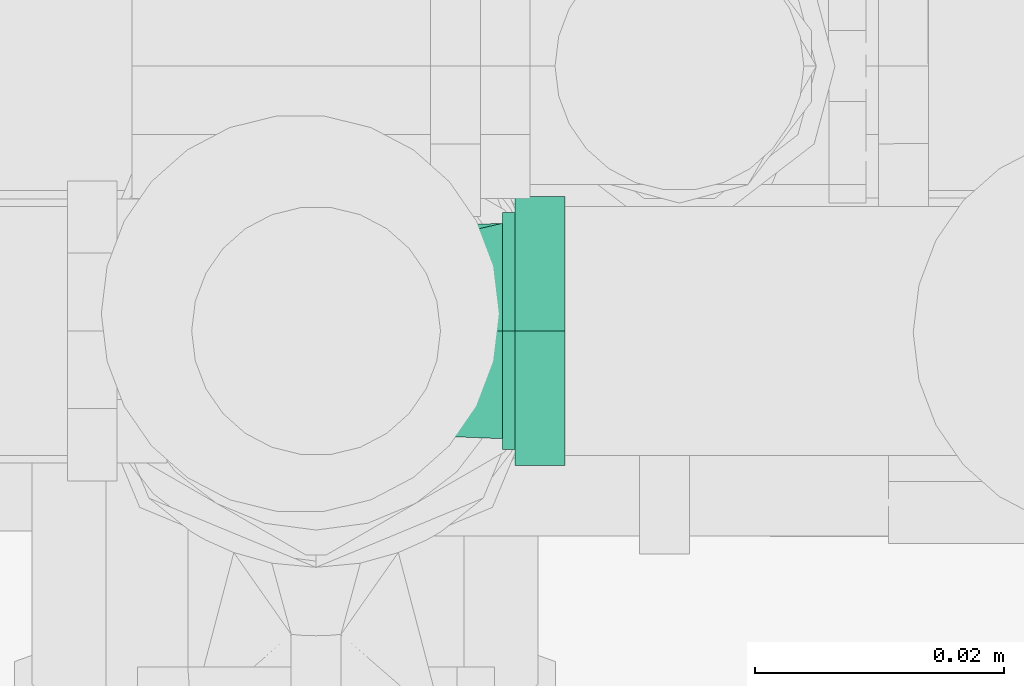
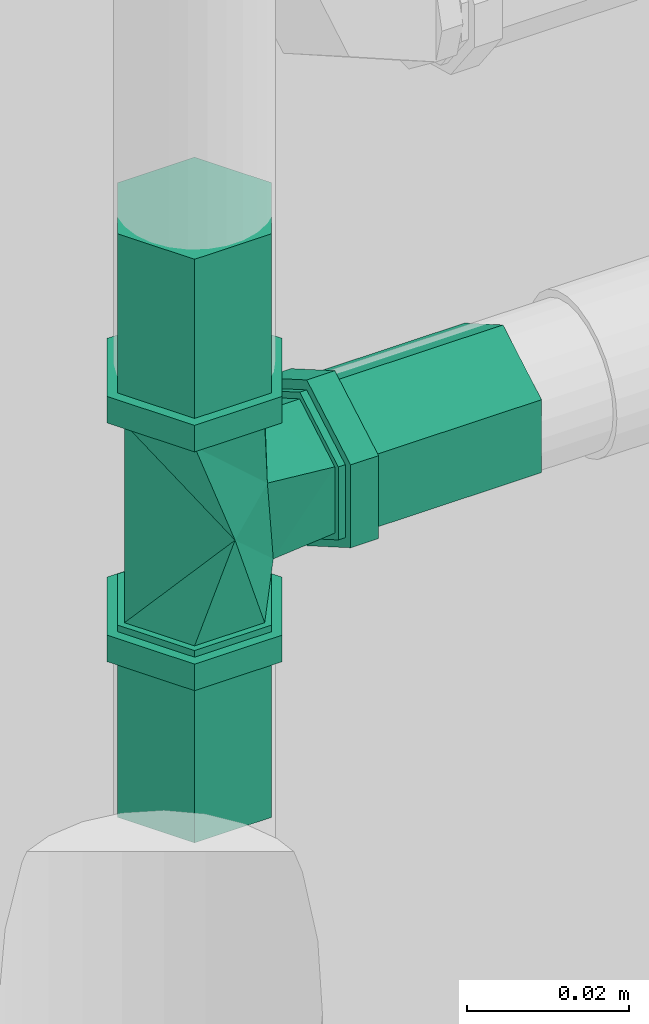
# One storey, part 28 of 32: 1 flow fitting.
"""IFC2X3 building model written with IfcOpenShell, lengths in metres."""

from ifc_helpers import new_model, entity, si_unit, converted_unit, derived_unit, direction, frame, origin, place, context, subcontext, project, spatial, faceted_brep, source, transform, mapped, material, material_list, type_object, type_shapes, element, save


model = new_model("IFC2X3")

# Units and contexts
model_context = context("Model", 3, precision=1e-05, world=origin(), true_north=direction((6.123031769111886e-17, 1.0)))
body_context = subcontext(model_context, "Body", "Model", "MODEL_VIEW")
ifc_project = project(units=[si_unit("LENGTHUNIT", "METRE"), si_unit("AREAUNIT", "SQUARE_METRE"), si_unit("VOLUMEUNIT", "CUBIC_METRE"), converted_unit("PLANEANGLEUNIT", "DEGREE", entity("IfcPlaneAngleMeasure", 0.017453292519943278), si_unit("PLANEANGLEUNIT", "RADIAN"), dimensions=[0, 0, 0, 0, 0, 0, 0]), si_unit("MASSUNIT", "GRAM", prefix="KILO"), derived_unit("MASSDENSITYUNIT", [(si_unit("MASSUNIT", "GRAM", prefix="KILO"), 1), (si_unit("LENGTHUNIT", "METRE"), -3)]), derived_unit("IONCONCENTRATIONUNIT", [(si_unit("MASSUNIT", "GRAM", prefix="KILO"), 1), (si_unit("LENGTHUNIT", "METRE"), -3)]), derived_unit("MOMENTOFINERTIAUNIT", [(si_unit("LENGTHUNIT", "METRE"), 4)]), si_unit("TIMEUNIT", "SECOND"), si_unit("FREQUENCYUNIT", "HERTZ"), si_unit("THERMODYNAMICTEMPERATUREUNIT", "DEGREE_CELSIUS"), derived_unit("THERMALTRANSMITTANCEUNIT", [(si_unit("MASSUNIT", "GRAM", prefix="KILO"), 1), (si_unit("THERMODYNAMICTEMPERATUREUNIT", "KELVIN"), -1), (si_unit("TIMEUNIT", "SECOND"), -3)]), derived_unit("THERMALCONDUCTANCEUNIT", [(si_unit("MASSUNIT", "GRAM", prefix="KILO"), 1), (si_unit("THERMODYNAMICTEMPERATUREUNIT", "KELVIN"), -1), (si_unit("TIMEUNIT", "SECOND"), -3), (si_unit("LENGTHUNIT", "METRE"), 1)]), derived_unit("VOLUMETRICFLOWRATEUNIT", [(si_unit("LENGTHUNIT", "METRE", prefix="DECI"), 3), (si_unit("TIMEUNIT", "SECOND"), -1)]), derived_unit("MASSFLOWRATEUNIT", [(si_unit("MASSUNIT", "GRAM", prefix="KILO"), 1), (si_unit("TIMEUNIT", "SECOND"), -1)]), derived_unit("ROTATIONALFREQUENCYUNIT", [(si_unit("TIMEUNIT", "SECOND"), -1)]), si_unit("ELECTRICCURRENTUNIT", "AMPERE"), si_unit("ELECTRICVOLTAGEUNIT", "VOLT"), si_unit("POWERUNIT", "WATT"), si_unit("FORCEUNIT", "NEWTON", prefix="KILO"), si_unit("ILLUMINANCEUNIT", "LUX"), si_unit("LUMINOUSFLUXUNIT", "LUMEN"), si_unit("LUMINOUSINTENSITYUNIT", "CANDELA"), si_unit("ENERGYUNIT", "JOULE"), derived_unit("USERDEFINED", [(si_unit("MASSUNIT", "GRAM", prefix="KILO"), -1), (si_unit("LENGTHUNIT", "METRE"), -2), (si_unit("TIMEUNIT", "SECOND"), 3), (si_unit("LUMINOUSFLUXUNIT", "LUMEN"), 1)]), derived_unit("USERDEFINED", [(si_unit("MASSUNIT", "GRAM", prefix="KILO"), 1), (si_unit("TIMEUNIT", "SECOND"), -3), (si_unit("LENGTHUNIT", "METRE"), 3), (si_unit("ELECTRICCURRENTUNIT", "AMPERE"), -2)]), derived_unit("SOUNDPOWERUNIT", [(si_unit("MASSUNIT", "GRAM", prefix="KILO"), 1), (si_unit("TIMEUNIT", "SECOND"), -3), (si_unit("LENGTHUNIT", "METRE"), 2)]), derived_unit("SOUNDPRESSUREUNIT", [(si_unit("MASSUNIT", "GRAM", prefix="KILO"), 1), (si_unit("LENGTHUNIT", "METRE"), -1), (si_unit("TIMEUNIT", "SECOND"), -2)]), derived_unit("LINEARVELOCITYUNIT", [(si_unit("LENGTHUNIT", "METRE"), 1), (si_unit("TIMEUNIT", "SECOND"), -1)]), si_unit("PRESSUREUNIT", "PASCAL"), derived_unit("USERDEFINED", [(si_unit("MASSUNIT", "GRAM", prefix="KILO"), 1), (si_unit("LENGTHUNIT", "METRE"), -2), (si_unit("TIMEUNIT", "SECOND"), -2)]), derived_unit("LINEARFORCEUNIT", [(si_unit("MASSUNIT", "GRAM", prefix="KILO"), 1), (si_unit("TIMEUNIT", "SECOND"), -2)]), derived_unit("PLANARFORCEUNIT", [(si_unit("MASSUNIT", "GRAM", prefix="KILO"), 1), (si_unit("LENGTHUNIT", "METRE"), -1), (si_unit("TIMEUNIT", "SECOND"), -2)]), derived_unit("SPECIFICHEATCAPACITYUNIT", [(si_unit("THERMODYNAMICTEMPERATUREUNIT", "KELVIN"), -1), (si_unit("LENGTHUNIT", "METRE"), 2), (si_unit("TIMEUNIT", "SECOND"), -2)]), derived_unit("HEATFLUXDENSITYUNIT", [(si_unit("MASSUNIT", "GRAM", prefix="KILO"), 1), (si_unit("TIMEUNIT", "SECOND"), -3)]), derived_unit("HEATINGVALUEUNIT", [(si_unit("LENGTHUNIT", "METRE"), 2), (si_unit("TIMEUNIT", "SECOND"), -2)]), derived_unit("VAPORPERMEABILITYUNIT", [(si_unit("LENGTHUNIT", "METRE"), -1), (si_unit("TIMEUNIT", "SECOND"), 1)]), derived_unit("DYNAMICVISCOSITYUNIT", [(si_unit("MASSUNIT", "GRAM", prefix="KILO"), 1), (si_unit("TIMEUNIT", "SECOND"), -1), (si_unit("LENGTHUNIT", "METRE"), -1)]), derived_unit("THERMALEXPANSIONCOEFFICIENTUNIT", [(si_unit("THERMODYNAMICTEMPERATUREUNIT", "KELVIN"), -1)]), derived_unit("MODULUSOFELASTICITYUNIT", [(si_unit("MASSUNIT", "GRAM", prefix="KILO"), 1), (si_unit("LENGTHUNIT", "METRE"), -1), (si_unit("TIMEUNIT", "SECOND"), -2)]), derived_unit("ISOTHERMALMOISTURECAPACITYUNIT", [(si_unit("MASSUNIT", "GRAM", prefix="KILO"), -1), (si_unit("LENGTHUNIT", "METRE"), 3)]), derived_unit("MOISTUREDIFFUSIVITYUNIT", [(si_unit("TIMEUNIT", "SECOND"), -1), (si_unit("LENGTHUNIT", "METRE"), 2)]), derived_unit("MASSPERLENGTHUNIT", [(si_unit("MASSUNIT", "GRAM", prefix="KILO"), 1), (si_unit("LENGTHUNIT", "METRE"), -1)]), derived_unit("THERMALRESISTANCEUNIT", [(si_unit("MASSUNIT", "GRAM", prefix="KILO"), -1), (si_unit("TIMEUNIT", "SECOND"), 3), (si_unit("THERMODYNAMICTEMPERATUREUNIT", "KELVIN"), 1)]), derived_unit("ACCELERATIONUNIT", [(si_unit("LENGTHUNIT", "METRE"), 1), (si_unit("TIMEUNIT", "SECOND"), -2)]), derived_unit("ANGULARVELOCITYUNIT", [(si_unit("TIMEUNIT", "SECOND"), -1), (si_unit("PLANEANGLEUNIT", "RADIAN"), 1)]), derived_unit("LINEARSTIFFNESSUNIT", [(si_unit("MASSUNIT", "GRAM", prefix="KILO"), 1), (si_unit("TIMEUNIT", "SECOND"), -2)]), derived_unit("WARPINGCONSTANTUNIT", [(si_unit("LENGTHUNIT", "METRE"), 6)]), derived_unit("LINEARMOMENTUNIT", [(si_unit("MASSUNIT", "GRAM", prefix="KILO"), 1), (si_unit("LENGTHUNIT", "METRE"), 1), (si_unit("TIMEUNIT", "SECOND"), -2)]), derived_unit("TORQUEUNIT", [(si_unit("MASSUNIT", "GRAM", prefix="KILO"), 1), (si_unit("LENGTHUNIT", "METRE"), 2), (si_unit("TIMEUNIT", "SECOND"), -2)])], contexts=[model_context])

# Site, building, storey
site_placement = place(None, origin())
site = spatial("IfcSite", under=ifc_project, at=site_placement, Name="Default", CompositionType="ELEMENT")
building_placement = place(site_placement, origin())
building = spatial("IfcBuilding", under=site, at=building_placement, CompositionType="ELEMENT")
storey_placement = place(building_placement, origin())
storey = spatial("IfcBuildingStorey", under=building, at=storey_placement, Name="Niveau 0", CompositionType="ELEMENT", Elevation=-1.949160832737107e-14)

# Flow fitting
ifc_material_1 = material(Name="Bague blanche VisuControl")
ifc_material_2 = material(Name="Inox")
ifc_material_3 = material(Name="PPSU")
ifc_material_list = material_list([ifc_material_1, ifc_material_2, ifc_material_3])
pipe_fitting_type = type_object("IfcPipeFittingType", Name="COMAP - SKINPRESS ppsu - Té_égal_réduit_9130W_9130RW:Standard", PredefinedType="NOTDEFINED", material=ifc_material_list)
shared_shape = source(origin(), body_context, "Body", "Brep", [
    faceted_brep([(0.016000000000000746, -0.006249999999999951, -0.010825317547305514), (0.01600000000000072, -0.012500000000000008, 0.0), (0.016000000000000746, -0.0062500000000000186, 0.010825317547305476), (0.016000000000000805, 0.006249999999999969, 0.010825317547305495), (0.016000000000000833, 0.01249999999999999, 0.0), (0.016000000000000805, 0.006250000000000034, -0.010825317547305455), (0.020000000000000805, 0.006249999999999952, 0.010825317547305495), (0.02000000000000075, -0.006250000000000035, 0.010825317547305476), (0.02000000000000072, -0.012500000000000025, 0.0), (0.02000000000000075, -0.006249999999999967, -0.010825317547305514), (0.020000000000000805, 0.006250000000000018, -0.010825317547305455), (0.020000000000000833, 0.012499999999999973, 0.0)], [[[0, 1, 2, 3, 4, 5]], [[6, 7, 8, 9, 10, 11]], [[11, 10, 5, 4]], [[10, 9, 0, 5]], [[9, 8, 1, 0]], [[8, 7, 2, 1]], [[7, 6, 3, 2]], [[6, 11, 4, 3]]]),
    faceted_brep([(0.01500000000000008, -0.005499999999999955, -0.009526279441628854), (0.015000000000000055, -0.011000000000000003, 0.0), (0.01500000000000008, -0.0055000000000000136, 0.00952627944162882), (0.015000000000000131, 0.005499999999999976, 0.009526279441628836), (0.015000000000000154, 0.010999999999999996, 0.0), (0.015000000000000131, 0.0055000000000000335, -0.009526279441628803), (0.04400000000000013, 0.005499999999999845, 0.009526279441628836), (0.04400000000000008, -0.0055000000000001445, 0.00952627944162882), (0.04400000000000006, -0.011000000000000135, 0.0), (0.04400000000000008, -0.0055000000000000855, -0.009526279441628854), (0.04400000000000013, 0.0054999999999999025, -0.009526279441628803), (0.04400000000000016, 0.010999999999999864, 0.0)], [[[0, 1, 2, 3, 4, 5]], [[6, 7, 8, 9, 10, 11]], [[11, 10, 5, 4]], [[10, 9, 0, 5]], [[9, 8, 1, 0]], [[8, 7, 2, 1]], [[7, 6, 3, 2]], [[6, 11, 4, 3]]]),
    faceted_brep([(-0.016000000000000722, 0.006250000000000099, -0.010825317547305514), (-0.01600000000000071, 0.012500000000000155, 0.0), (-0.016000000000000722, 0.006250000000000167, 0.010825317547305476), (-0.016000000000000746, -0.006249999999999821, 0.010825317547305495), (-0.016000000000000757, -0.012499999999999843, 0.0), (-0.016000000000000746, -0.006249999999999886, -0.010825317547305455), (-0.020000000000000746, -0.006249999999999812, 0.010825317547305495), (-0.020000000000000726, 0.006250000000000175, 0.010825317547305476), (-0.02000000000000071, 0.012500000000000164, 0.0), (-0.020000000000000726, 0.006250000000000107, -0.010825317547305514), (-0.020000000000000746, -0.006249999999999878, -0.010825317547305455), (-0.020000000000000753, -0.012499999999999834, 0.0)], [[[0, 1, 2, 3, 4, 5]], [[6, 7, 8, 9, 10, 11]], [[11, 10, 5, 4]], [[10, 9, 0, 5]], [[9, 8, 1, 0]], [[8, 7, 2, 1]], [[7, 6, 3, 2]], [[6, 11, 4, 3]]]),
    faceted_brep([(-0.015000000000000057, 0.005500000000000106, -0.009526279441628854), (-0.015000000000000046, 0.011000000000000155, 0.0), (-0.015000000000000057, 0.005500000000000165, 0.00952627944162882), (-0.015000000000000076, -0.0054999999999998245, 0.009526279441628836), (-0.015000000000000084, -0.010999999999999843, 0.0), (-0.015000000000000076, -0.005499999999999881, -0.009526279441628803), (-0.044000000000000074, -0.005499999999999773, 0.009526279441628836), (-0.04400000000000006, 0.0055000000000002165, 0.00952627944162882), (-0.044000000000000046, 0.011000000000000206, 0.0), (-0.04400000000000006, 0.0055000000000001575, -0.009526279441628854), (-0.044000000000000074, -0.0054999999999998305, -0.009526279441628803), (-0.04400000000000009, -0.010999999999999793, 0.0)], [[[0, 1, 2, 3, 4, 5]], [[6, 7, 8, 9, 10, 11]], [[11, 10, 5, 4]], [[10, 9, 0, 5]], [[9, 8, 1, 0]], [[8, 7, 2, 1]], [[7, 6, 3, 2]], [[6, 11, 4, 3]]]),
    faceted_brep([(0.0062499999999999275, 0.01600000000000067, -0.010825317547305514), (0.012499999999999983, 0.01600000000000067, 0.0), (0.006249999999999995, 0.01600000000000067, 0.010825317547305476), (-0.006249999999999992, 0.01600000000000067, 0.010825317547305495), (-0.012500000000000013, 0.01600000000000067, 0.0), (-0.006250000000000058, 0.01600000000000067, -0.010825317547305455), (-0.006249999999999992, 0.02000000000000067, 0.010825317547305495), (0.006249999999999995, 0.02000000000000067, 0.010825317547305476), (0.012499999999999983, 0.02000000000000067, 0.0), (0.0062499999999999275, 0.02000000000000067, -0.010825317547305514), (-0.006250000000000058, 0.02000000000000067, -0.010825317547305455), (-0.012500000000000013, 0.02000000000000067, 0.0)], [[[0, 1, 2, 3, 4, 5]], [[6, 7, 8, 9, 10, 11]], [[11, 10, 5, 4]], [[10, 9, 0, 5]], [[9, 8, 1, 0]], [[8, 7, 2, 1]], [[7, 6, 3, 2]], [[6, 11, 4, 3]]]),
    faceted_brep([(0.0054999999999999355, 0.014999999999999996, -0.009526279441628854), (0.010999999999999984, 0.014999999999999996, 0.0), (0.0054999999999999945, 0.014999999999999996, 0.00952627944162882), (-0.005499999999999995, 0.014999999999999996, 0.009526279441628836), (-0.011000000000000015, 0.014999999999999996, 0.0), (-0.005500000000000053, 0.014999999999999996, -0.009526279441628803), (-0.005499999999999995, 0.044, 0.009526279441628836), (0.0054999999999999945, 0.044, 0.00952627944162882), (0.010999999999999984, 0.044, 0.0), (0.0054999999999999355, 0.044, -0.009526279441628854), (-0.005500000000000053, 0.044, -0.009526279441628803), (-0.011000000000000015, 0.044, 0.0)], [[[0, 1, 2, 3, 4, 5]], [[6, 7, 8, 9, 10, 11]], [[11, 10, 5, 4]], [[10, 9, 0, 5]], [[9, 8, 1, 0]], [[8, 7, 2, 1]], [[7, 6, 3, 2]], [[6, 11, 4, 3]]]),
    faceted_brep([(-0.01, 0.015, 0.0), (-0.004999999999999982, 0.015, 0.008660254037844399), (0.00500000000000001, 0.015, 0.008660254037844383), (0.01, 0.015, 0.0), (0.004999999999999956, 0.015, -0.00866025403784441), (-0.005000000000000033, 0.015, -0.008660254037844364), (-0.01, 0.01, 0.0), (-0.007257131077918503, 0.007257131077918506, -0.006879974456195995), (0.01, 0.01, 0.0), (0.0, 0.0, -0.009999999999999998), (0.005605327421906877, 0.005605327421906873, -0.008281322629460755), (0.007257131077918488, 0.007257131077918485, 0.006879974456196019), (0.0, 0.0, 0.010000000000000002), (-0.005605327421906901, 0.005605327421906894, 0.008281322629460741), (0.015, -0.005000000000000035, -0.008660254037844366), (0.015, 0.004999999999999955, -0.008660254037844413), (0.015, 0.01, 0.0), (0.015, 0.005000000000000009, 0.008660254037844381), (0.015, -0.004999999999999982, 0.008660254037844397), (0.015, -0.01, 0.0), (-0.015, -0.004999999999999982, 0.008660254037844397), (-0.015, 0.005000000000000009, 0.008660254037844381), (-0.015, 0.01, 0.0), (-0.015, 0.004999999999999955, -0.008660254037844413), (-0.015, -0.005000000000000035, -0.008660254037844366), (-0.015, -0.01, 0.0)], [[[0, 1, 2, 3, 4, 5]], [[0, 5, 6]], [[7, 6, 5]], [[5, 4, 7]], [[4, 3, 8]], [[9, 7, 10]], [[8, 10, 4]], [[10, 7, 4]], [[3, 2, 8]], [[11, 8, 2]], [[2, 1, 11]], [[1, 0, 6]], [[12, 11, 13]], [[6, 13, 1]], [[13, 11, 1]], [[14, 15, 16, 17, 18, 19]], [[20, 21, 22, 23, 24, 25]], [[25, 24, 9]], [[9, 24, 23]], [[25, 9, 19]], [[9, 14, 19]], [[15, 14, 10]], [[14, 9, 10]], [[7, 23, 22]], [[7, 22, 6]], [[16, 15, 8]], [[8, 15, 10]], [[7, 9, 23]], [[6, 21, 13]], [[21, 6, 22]], [[16, 8, 11]], [[16, 11, 17]], [[13, 20, 12]], [[12, 20, 25]], [[17, 12, 18]], [[17, 11, 12]], [[19, 18, 12]], [[12, 25, 19]], [[13, 21, 20]]]),
])
type_shapes(pipe_fitting_type, [shared_shape])
flow_fitting_placement = place(storey_placement, frame((-14.032760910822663, 2.826796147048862, 0.29999999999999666), z_axis=(0.0, -1.0, 0.0), x_axis=(0.0, 0.0, -1.0)))
element("IfcFlowFitting", 1, at=flow_fitting_placement, inside=storey, type_object=pipe_fitting_type, material=ifc_material_list, Name="COMAP - SKINPRESS ppsu - Té_égal_réduit_9130W_9130RW:Standard", ObjectType="COMAP - SKINPRESS ppsu - Té_égal_réduit_9130W_9130RW:Standard", context=body_context, shape_type="MappedRepresentation", body=[
    mapped(shared_shape, transform((0.0, 0.0, 0.0), scale=1.0)),
])

save(model, "model.ifc")
